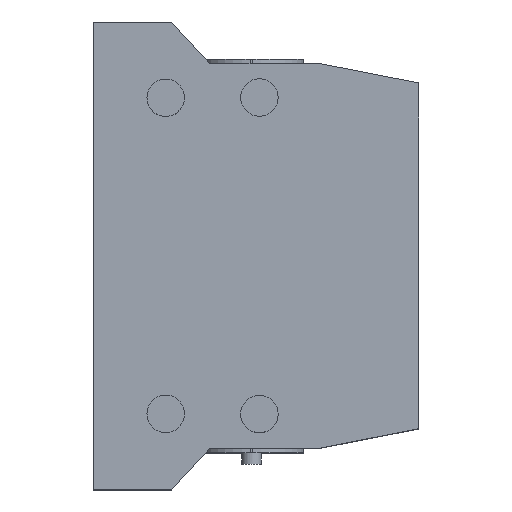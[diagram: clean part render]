
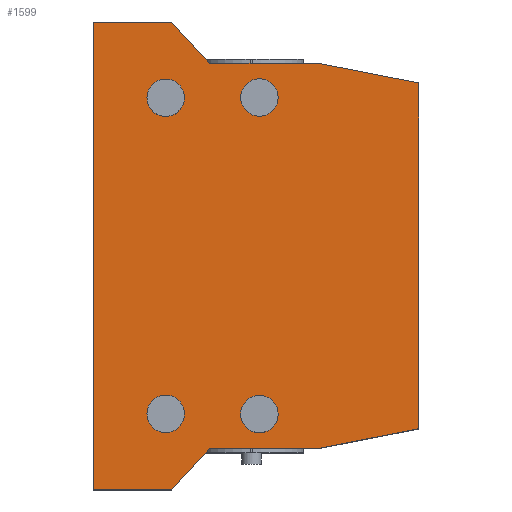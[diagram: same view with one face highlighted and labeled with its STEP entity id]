
A CAD part, top view. The second image highlights one B-rep face of the part: STEP entity #1599.
In plain terms, the highlighted planar face has unit normal (0, 0, 1).
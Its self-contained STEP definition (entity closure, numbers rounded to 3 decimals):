
#71=LINE('',#2334,#243);
#75=LINE('',#2343,#247);
#82=LINE('',#2357,#254);
#85=LINE('',#2363,#257);
#88=LINE('',#2369,#260);
#91=LINE('',#2375,#263);
#94=LINE('',#2381,#266);
#97=LINE('',#2387,#269);
#100=LINE('',#2393,#272);
#103=LINE('',#2399,#275);
#243=VECTOR('',#1880,1000.);
#247=VECTOR('',#1886,1000.);
#254=VECTOR('',#1895,1000.);
#257=VECTOR('',#1900,1000.);
#260=VECTOR('',#1905,1000.);
#263=VECTOR('',#1910,1000.);
#266=VECTOR('',#1915,1000.);
#269=VECTOR('',#1920,1000.);
#272=VECTOR('',#1925,1000.);
#275=VECTOR('',#1930,1000.);
#470=ORIENTED_EDGE('',*,*,#878,.F.);
#471=ORIENTED_EDGE('',*,*,#879,.F.);
#472=ORIENTED_EDGE('',*,*,#880,.F.);
#473=ORIENTED_EDGE('',*,*,#881,.F.);
#474=ORIENTED_EDGE('',*,*,#844,.T.);
#475=ORIENTED_EDGE('',*,*,#848,.T.);
#476=ORIENTED_EDGE('',*,*,#855,.T.);
#477=ORIENTED_EDGE('',*,*,#858,.T.);
#478=ORIENTED_EDGE('',*,*,#861,.T.);
#479=ORIENTED_EDGE('',*,*,#864,.T.);
#480=ORIENTED_EDGE('',*,*,#867,.T.);
#481=ORIENTED_EDGE('',*,*,#870,.T.);
#482=ORIENTED_EDGE('',*,*,#873,.T.);
#483=ORIENTED_EDGE('',*,*,#876,.T.);
#844=EDGE_CURVE('',#1058,#1059,#71,.T.);
#848=EDGE_CURVE('',#1059,#1062,#75,.T.);
#855=EDGE_CURVE('',#1062,#1068,#82,.T.);
#858=EDGE_CURVE('',#1068,#1070,#85,.T.);
#861=EDGE_CURVE('',#1070,#1072,#88,.T.);
#864=EDGE_CURVE('',#1072,#1074,#91,.T.);
#867=EDGE_CURVE('',#1074,#1076,#94,.T.);
#870=EDGE_CURVE('',#1076,#1078,#97,.T.);
#873=EDGE_CURVE('',#1078,#1080,#100,.T.);
#876=EDGE_CURVE('',#1080,#1058,#103,.T.);
#878=EDGE_CURVE('',#1082,#1082,#1210,.T.);
#879=EDGE_CURVE('',#1083,#1083,#1211,.T.);
#880=EDGE_CURVE('',#1084,#1084,#1212,.T.);
#881=EDGE_CURVE('',#1085,#1085,#1213,.T.);
#1058=VERTEX_POINT('',#2335);
#1059=VERTEX_POINT('',#2336);
#1062=VERTEX_POINT('',#2344);
#1068=VERTEX_POINT('',#2358);
#1070=VERTEX_POINT('',#2364);
#1072=VERTEX_POINT('',#2370);
#1074=VERTEX_POINT('',#2376);
#1076=VERTEX_POINT('',#2382);
#1078=VERTEX_POINT('',#2388);
#1080=VERTEX_POINT('',#2394);
#1082=VERTEX_POINT('',#2404);
#1083=VERTEX_POINT('',#2406);
#1084=VERTEX_POINT('',#2408);
#1085=VERTEX_POINT('',#2410);
#1210=CIRCLE('',#1746,18.);
#1211=CIRCLE('',#1747,18.);
#1212=CIRCLE('',#1748,18.);
#1213=CIRCLE('',#1749,18.);
#1260=EDGE_LOOP('',(#470));
#1261=EDGE_LOOP('',(#471));
#1262=EDGE_LOOP('',(#472));
#1263=EDGE_LOOP('',(#473));
#1264=EDGE_LOOP('',(#474,#475,#476,#477,#478,#479,#480,#481,#482,#483));
#1394=FACE_BOUND('',#1260,.T.);
#1395=FACE_BOUND('',#1261,.T.);
#1396=FACE_BOUND('',#1262,.T.);
#1397=FACE_BOUND('',#1263,.T.);
#1398=FACE_BOUND('',#1264,.T.);
#1526=PLANE('',#1745);
#1599=ADVANCED_FACE('',(#1394,#1395,#1396,#1397,#1398),#1526,.T.);
#1745=AXIS2_PLACEMENT_3D('',#2402,#1934,#1935);
#1746=AXIS2_PLACEMENT_3D('',#2403,#1936,#1937);
#1747=AXIS2_PLACEMENT_3D('',#2405,#1938,#1939);
#1748=AXIS2_PLACEMENT_3D('',#2407,#1940,#1941);
#1749=AXIS2_PLACEMENT_3D('',#2409,#1942,#1943);
#1880=DIRECTION('',(1.,0.,0.));
#1886=DIRECTION('',(0.981,0.192,0.));
#1895=DIRECTION('',(0.,1.,0.));
#1900=DIRECTION('',(-0.981,0.192,0.));
#1905=DIRECTION('',(-1.,0.,0.));
#1910=DIRECTION('',(-0.678,0.735,0.));
#1915=DIRECTION('',(-1.,0.,0.));
#1920=DIRECTION('',(0.,-1.,0.));
#1925=DIRECTION('',(1.,0.,0.));
#1930=DIRECTION('',(0.678,0.735,0.));
#1934=DIRECTION('',(0.,0.,1.));
#1935=DIRECTION('',(1.,0.,0.));
#1936=DIRECTION('',(0.,0.,1.));
#1937=DIRECTION('',(-1.,0.,0.));
#1938=DIRECTION('',(0.,0.,1.));
#1939=DIRECTION('',(-1.,0.,0.));
#1940=DIRECTION('',(0.,0.,1.));
#1941=DIRECTION('',(1.,0.,0.));
#1942=DIRECTION('',(0.,0.,1.));
#1943=DIRECTION('',(1.,0.,0.));
#2334=CARTESIAN_POINT('',(171.6,-184.725,0.));
#2335=CARTESIAN_POINT('',(66.413,-184.725,0.));
#2336=CARTESIAN_POINT('',(171.6,-184.725,0.));
#2343=CARTESIAN_POINT('',(171.6,-184.725,0.));
#2344=CARTESIAN_POINT('',(266.895,-166.049,0.));
#2357=CARTESIAN_POINT('',(266.895,-166.049,0.));
#2358=CARTESIAN_POINT('',(266.895,166.049,0.));
#2363=CARTESIAN_POINT('',(171.6,184.725,0.));
#2364=CARTESIAN_POINT('',(171.6,184.725,0.));
#2369=CARTESIAN_POINT('',(171.6,184.725,0.));
#2370=CARTESIAN_POINT('',(66.413,184.725,0.));
#2375=CARTESIAN_POINT('',(29.726,224.541,0.));
#2376=CARTESIAN_POINT('',(29.726,224.541,0.));
#2381=CARTESIAN_POINT('',(-45.345,224.541,0.));
#2382=CARTESIAN_POINT('',(-45.345,224.541,0.));
#2387=CARTESIAN_POINT('',(-45.345,224.541,0.));
#2388=CARTESIAN_POINT('',(-45.345,-224.541,0.));
#2393=CARTESIAN_POINT('',(-45.345,-224.541,0.));
#2394=CARTESIAN_POINT('',(29.726,-224.541,0.));
#2399=CARTESIAN_POINT('',(29.726,-224.541,0.));
#2402=CARTESIAN_POINT('',(0.,0.,0.));
#2403=CARTESIAN_POINT('',(24.042,151.757,0.));
#2404=CARTESIAN_POINT('',(6.042,151.757,0.));
#2405=CARTESIAN_POINT('',(114.047,152.009,0.));
#2406=CARTESIAN_POINT('',(96.047,152.009,0.));
#2407=CARTESIAN_POINT('',(24.042,-151.757,0.));
#2408=CARTESIAN_POINT('',(42.042,-151.757,0.));
#2409=CARTESIAN_POINT('',(114.047,-152.009,0.));
#2410=CARTESIAN_POINT('',(132.047,-152.009,0.));
